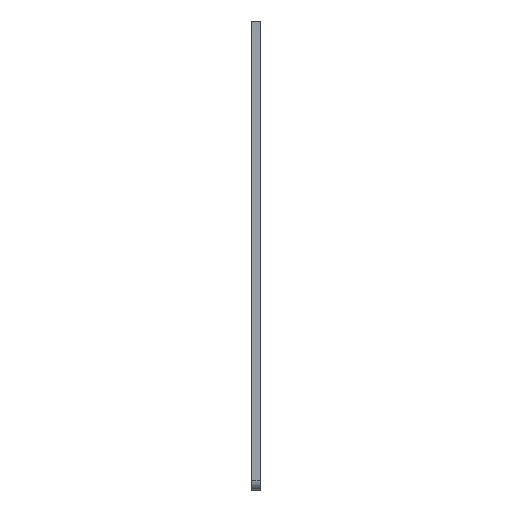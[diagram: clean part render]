
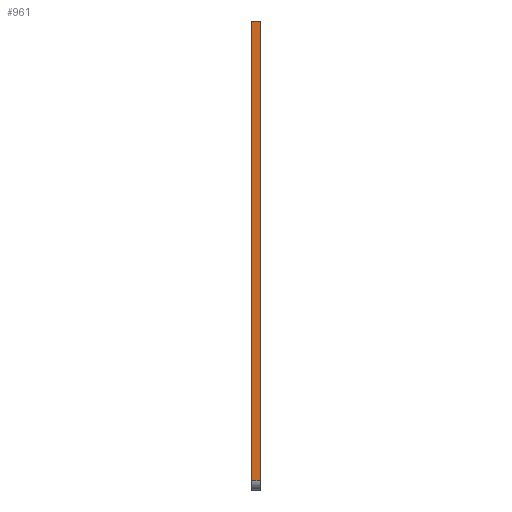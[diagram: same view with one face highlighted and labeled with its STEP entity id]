
A CAD part, left-side view. The second image highlights one B-rep face of the part: STEP entity #961.
In plain terms, the highlighted planar face has unit normal (-1, 0, 0).
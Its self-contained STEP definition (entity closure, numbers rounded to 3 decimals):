
#44 = CYLINDRICAL_SURFACE('',#45,1.7);
#45 = AXIS2_PLACEMENT_3D('',#46,#47,#48);
#46 = CARTESIAN_POINT('',(-106.5,-88.5,3.5));
#47 = DIRECTION('',(-0.,1.,-0.));
#48 = DIRECTION('',(-1.,-0.,0.));
#72 = PLANE('',#73);
#73 = AXIS2_PLACEMENT_3D('',#74,#75,#76);
#74 = CARTESIAN_POINT('',(0.,-90.,45.11));
#75 = DIRECTION('',(-0.,-1.,-0.));
#76 = DIRECTION('',(0.,0.,-1.));
#126 = PLANE('',#127);
#127 = AXIS2_PLACEMENT_3D('',#128,#129,#130);
#128 = CARTESIAN_POINT('',(0.,-88.5,45.11));
#129 = DIRECTION('',(-0.,-1.,-0.));
#130 = DIRECTION('',(0.,0.,-1.));
#141 = EDGE_CURVE('',#142,#144,#146,.T.);
#142 = VERTEX_POINT('',#143);
#143 = CARTESIAN_POINT('',(-108.2,-88.5,3.5));
#144 = VERTEX_POINT('',#145);
#145 = CARTESIAN_POINT('',(-108.2,-90.,3.5));
#146 = SURFACE_CURVE('',#147,(#151,#158),.PCURVE_S1.);
#147 = LINE('',#148,#149);
#148 = CARTESIAN_POINT('',(-108.2,-88.5,3.5));
#149 = VECTOR('',#150,1.);
#150 = DIRECTION('',(0.,-1.,0.));
#151 = PCURVE('',#44,#152);
#152 = DEFINITIONAL_REPRESENTATION('',(#153),#157);
#153 = LINE('',#154,#155);
#154 = CARTESIAN_POINT('',(-0.,0.));
#155 = VECTOR('',#156,1.);
#156 = DIRECTION('',(-0.,-1.));
#157 = ( GEOMETRIC_REPRESENTATION_CONTEXT(2) 
PARAMETRIC_REPRESENTATION_CONTEXT() REPRESENTATION_CONTEXT('2D SPACE',''
  ) );
#158 = PCURVE('',#159,#164);
#159 = PLANE('',#160);
#160 = AXIS2_PLACEMENT_3D('',#161,#162,#163);
#161 = CARTESIAN_POINT('',(-108.2,-88.5,88.2));
#162 = DIRECTION('',(1.,0.,0.));
#163 = DIRECTION('',(0.,0.,-1.));
#164 = DEFINITIONAL_REPRESENTATION('',(#165),#169);
#165 = LINE('',#166,#167);
#166 = CARTESIAN_POINT('',(84.7,0.));
#167 = VECTOR('',#168,1.);
#168 = DIRECTION('',(0.,-1.));
#169 = ( GEOMETRIC_REPRESENTATION_CONTEXT(2) 
PARAMETRIC_REPRESENTATION_CONTEXT() REPRESENTATION_CONTEXT('2D SPACE',''
  ) );
#323 = VERTEX_POINT('',#324);
#324 = CARTESIAN_POINT('',(-108.2,-88.5,88.2));
#338 = PLANE('',#339);
#339 = AXIS2_PLACEMENT_3D('',#340,#341,#342);
#340 = CARTESIAN_POINT('',(108.2,-88.5,88.2));
#341 = DIRECTION('',(-0.,-0.,-1.));
#342 = DIRECTION('',(-1.,0.,0.));
#350 = EDGE_CURVE('',#323,#142,#351,.T.);
#351 = SURFACE_CURVE('',#352,(#356,#363),.PCURVE_S1.);
#352 = LINE('',#353,#354);
#353 = CARTESIAN_POINT('',(-108.2,-88.5,88.2));
#354 = VECTOR('',#355,1.);
#355 = DIRECTION('',(0.,0.,-1.));
#356 = PCURVE('',#126,#357);
#357 = DEFINITIONAL_REPRESENTATION('',(#358),#362);
#358 = LINE('',#359,#360);
#359 = CARTESIAN_POINT('',(-43.09,-108.2));
#360 = VECTOR('',#361,1.);
#361 = DIRECTION('',(1.,0.));
#362 = ( GEOMETRIC_REPRESENTATION_CONTEXT(2) 
PARAMETRIC_REPRESENTATION_CONTEXT() REPRESENTATION_CONTEXT('2D SPACE',''
  ) );
#363 = PCURVE('',#159,#364);
#364 = DEFINITIONAL_REPRESENTATION('',(#365),#369);
#365 = LINE('',#366,#367);
#366 = CARTESIAN_POINT('',(0.,0.));
#367 = VECTOR('',#368,1.);
#368 = DIRECTION('',(1.,0.));
#369 = ( GEOMETRIC_REPRESENTATION_CONTEXT(2) 
PARAMETRIC_REPRESENTATION_CONTEXT() REPRESENTATION_CONTEXT('2D SPACE',''
  ) );
#682 = VERTEX_POINT('',#683);
#683 = CARTESIAN_POINT('',(-108.2,-90.,88.2));
#704 = EDGE_CURVE('',#682,#144,#705,.T.);
#705 = SURFACE_CURVE('',#706,(#710,#717),.PCURVE_S1.);
#706 = LINE('',#707,#708);
#707 = CARTESIAN_POINT('',(-108.2,-90.,88.2));
#708 = VECTOR('',#709,1.);
#709 = DIRECTION('',(0.,0.,-1.));
#710 = PCURVE('',#72,#711);
#711 = DEFINITIONAL_REPRESENTATION('',(#712),#716);
#712 = LINE('',#713,#714);
#713 = CARTESIAN_POINT('',(-43.09,-108.2));
#714 = VECTOR('',#715,1.);
#715 = DIRECTION('',(1.,0.));
#716 = ( GEOMETRIC_REPRESENTATION_CONTEXT(2) 
PARAMETRIC_REPRESENTATION_CONTEXT() REPRESENTATION_CONTEXT('2D SPACE',''
  ) );
#717 = PCURVE('',#159,#718);
#718 = DEFINITIONAL_REPRESENTATION('',(#719),#723);
#719 = LINE('',#720,#721);
#720 = CARTESIAN_POINT('',(0.,-1.5));
#721 = VECTOR('',#722,1.);
#722 = DIRECTION('',(1.,0.));
#723 = ( GEOMETRIC_REPRESENTATION_CONTEXT(2) 
PARAMETRIC_REPRESENTATION_CONTEXT() REPRESENTATION_CONTEXT('2D SPACE',''
  ) );
#961 = ADVANCED_FACE('',(#962),#159,.F.);
#962 = FACE_BOUND('',#963,.F.);
#963 = EDGE_LOOP('',(#964,#985,#986,#987));
#964 = ORIENTED_EDGE('',*,*,#965,.T.);
#965 = EDGE_CURVE('',#323,#682,#966,.T.);
#966 = SURFACE_CURVE('',#967,(#971,#978),.PCURVE_S1.);
#967 = LINE('',#968,#969);
#968 = CARTESIAN_POINT('',(-108.2,-88.5,88.2));
#969 = VECTOR('',#970,1.);
#970 = DIRECTION('',(0.,-1.,0.));
#971 = PCURVE('',#159,#972);
#972 = DEFINITIONAL_REPRESENTATION('',(#973),#977);
#973 = LINE('',#974,#975);
#974 = CARTESIAN_POINT('',(0.,0.));
#975 = VECTOR('',#976,1.);
#976 = DIRECTION('',(0.,-1.));
#977 = ( GEOMETRIC_REPRESENTATION_CONTEXT(2) 
PARAMETRIC_REPRESENTATION_CONTEXT() REPRESENTATION_CONTEXT('2D SPACE',''
  ) );
#978 = PCURVE('',#338,#979);
#979 = DEFINITIONAL_REPRESENTATION('',(#980),#984);
#980 = LINE('',#981,#982);
#981 = CARTESIAN_POINT('',(216.4,0.));
#982 = VECTOR('',#983,1.);
#983 = DIRECTION('',(0.,-1.));
#984 = ( GEOMETRIC_REPRESENTATION_CONTEXT(2) 
PARAMETRIC_REPRESENTATION_CONTEXT() REPRESENTATION_CONTEXT('2D SPACE',''
  ) );
#985 = ORIENTED_EDGE('',*,*,#704,.T.);
#986 = ORIENTED_EDGE('',*,*,#141,.F.);
#987 = ORIENTED_EDGE('',*,*,#350,.F.);
